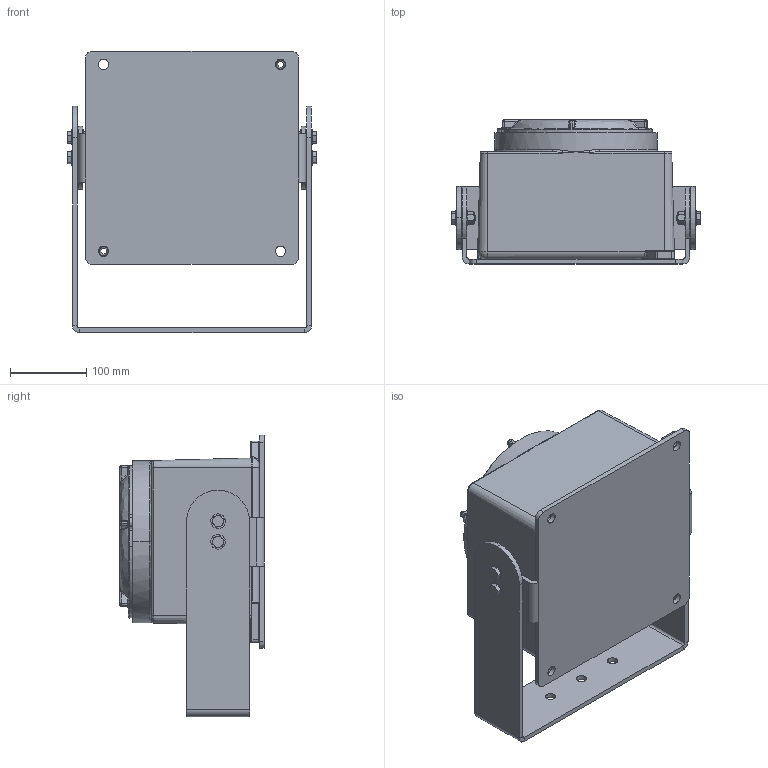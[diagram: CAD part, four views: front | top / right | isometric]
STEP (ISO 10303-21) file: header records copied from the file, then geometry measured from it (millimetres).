
FILE_DESCRIPTION (( 'STEP AP203' ), '1' );
FILE_NAME ('FAB00001283.STEP', '2026-07-03T20:15:52', ( '' ), ( '' ), 'SwSTEP 2.0', 'SolidWorks 2020', '' );
FILE_SCHEMA (( 'CONFIG_CONTROL_DESIGN' ));
Length unit declared in the file: inch
Products named in the file (16): 0.375 Screw Washer_FW-0.375; FAB00001283-C-1_ Back Trunnion; FAB00001283-A-1; FAB00001283-A; FAB00001283-C-2_ Surface Mount Trunnion; Camera; FAB00001283-A-2; KIL_GRK-537; #6-32 Socket Head Cap Screw_FS-SHC6-32-L0.625; FAB00001283-B; KIL_GRK-537_EXPCMR-IP-POE-DPTZ-24V; 0.375-16 Hex Head Screw_FS-HH0.375-16-L1.00; FAB00001283; KIL_GRK-537 Lid; 0.375-16 Hex Nut_FN-HN0.375-16
Assembly tree (34 placements, depth 3):
  FAB00001283
    KIL_GRK-537
      KIL_GRK-537_EXPCMR-IP-POE-DPTZ-24V
      KIL_GRK-537 Lid
    FAB00001283-A
      FAB00001283-A-2
      FAB00001283-A-1
    FAB00001283-B
      FAB00001283-B
      Camera
      #6-32 Socket Head Cap Screw_FS-SHC6-32-L0.625  x7
    FAB00001283-C-1_ Back Trunnion
    FAB00001283-C-2_ Surface Mount Trunnion
    0.375-16 Hex Head Screw_FS-HH0.375-16-L1.00  x4
    0.375 Screw Washer_FW-0.375  x8
    0.375-16 Hex Nut_FN-HN0.375-16  x4
Bounding box: 326.99 x 188.88 x 369 mm (x, y, z)
Volume: 5519770.8 mm3; surface area: 969617.5 mm2
Topology: 31 solids, 31 shells, 4215 faces, 10957 edges, 7037 vertices
Faces by surface type: plane 2249, bspline 1171, cylinder 487, cone 228, torus 78, sphere 2
Entity records: 136140 total; most frequent: CARTESIAN_POINT 45024, ORIENTED_EDGE 20480, DIRECTION 14390, EDGE_CURVE 10240, LINE 6828, VECTOR 6828, VERTEX_POINT 6663, EDGE_LOOP 4307
